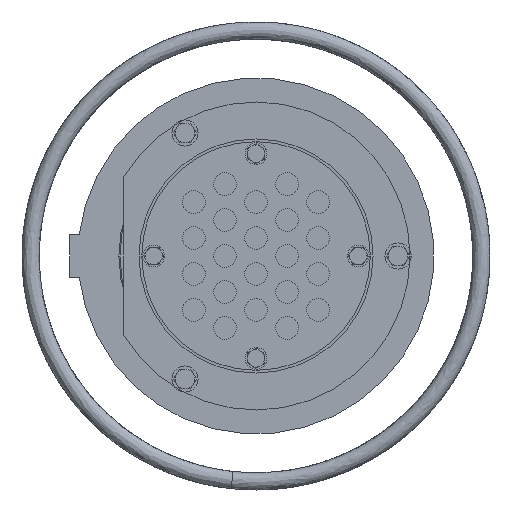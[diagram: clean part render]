
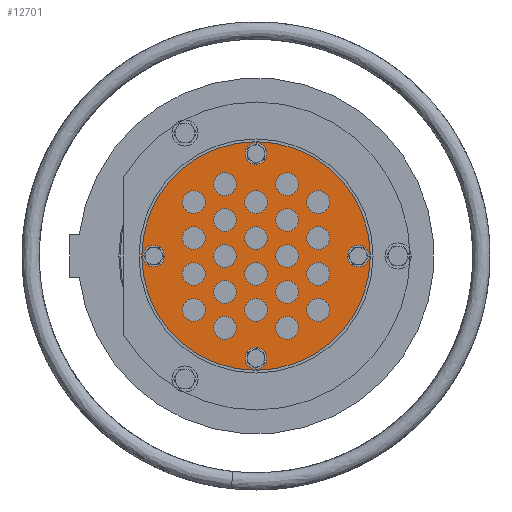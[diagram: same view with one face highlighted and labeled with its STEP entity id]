
A CAD part, left-side view. The second image highlights one B-rep face of the part: STEP entity #12701.
In plain terms, the highlighted planar face has unit normal (-1, 0, 0).
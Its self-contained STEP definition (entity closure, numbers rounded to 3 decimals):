
#2120=PLANE('',#13758);
#2757=FACE_OUTER_BOUND('',#3531,.T.);
#3531=EDGE_LOOP('',(#10435));
#4556=CIRCLE('',#13759,105.);
#5626=VERTEX_POINT('',#46969);
#7265=EDGE_CURVE('',#5626,#5626,#4556,.T.);
#10435=ORIENTED_EDGE('',*,*,#7265,.T.);
#12701=ADVANCED_FACE('',(#2757),#2120,.T.);
#13758=AXIS2_PLACEMENT_3D('',#46968,#16206,#16207);
#13759=AXIS2_PLACEMENT_3D('',#46970,#16208,#16209);
#16206=DIRECTION('center_axis',(-1.,0.,0.));
#16207=DIRECTION('ref_axis',(0.,0.,1.));
#16208=DIRECTION('center_axis',(-1.,0.,0.));
#16209=DIRECTION('ref_axis',(0.,0.,1.));
#46968=CARTESIAN_POINT('Origin',(-95.,0.,0.));
#46969=CARTESIAN_POINT('',(-95.,0.,-105.));
#46970=CARTESIAN_POINT('Origin',(-95.,0.,0.));
